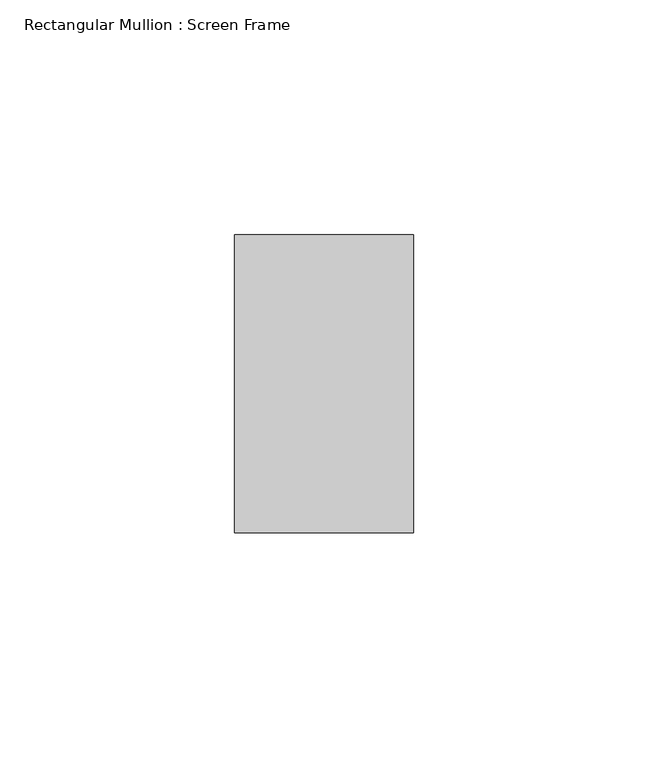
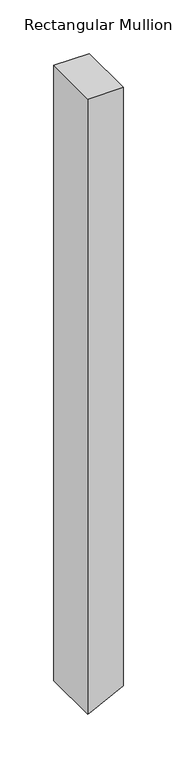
"""IFC4 building model written with IfcOpenShell, lengths in millimetres: member geometry, Rectangular Mullion : Screen Frame."""

from ifc_helpers import new_model, si_unit, frame, origin, place, context, project, spatial, polyline, outline, extrude, source, transform, mapped, element, save


def rectangular_mullion_screen_frame_4bcd470e(model_context):
    return source(origin(), model_context, "Body", "SweptSolid", [
        extrude(outline(polyline([(0.0, 19.05), (0.0, -19.05), (-699.9413206, -19.05), (-699.0336934, -17.2644466), (-680.5744418, 19.05), (0.0, 19.05)])), frame((0.0, -31.75, 0.0), z_axis=(0.0, 1.0, 0.0), x_axis=(0.0, 0.0, 1.0)), (0.0, 0.0, 1.0), 63.5),
    ])


if __name__ == "__main__":
    model = new_model("IFC4")
    model_context = context("Model", 3, world=origin())
    ifc_project = project(units=[si_unit("LENGTHUNIT", "METRE", prefix="MILLI")], contexts=[model_context])
    site = spatial("IfcSite", under=ifc_project)
    building = spatial("IfcBuilding", under=site)
    placement = place(None, origin())
    rectangular_mullion_screen_frame_shape = rectangular_mullion_screen_frame_4bcd470e(model_context)
    element("IfcMember", 1, ObjectType="Rectangular Mullion : Screen Frame", at=placement, inside=building, context=model_context, shape_type="MappedRepresentation", body=[
        mapped(rectangular_mullion_screen_frame_shape, transform((0.0, 0.0, 0.0), x_axis=(1.0, 0.0, 0.0), y_axis=(0.0, 1.0, 0.0), z_axis=(0.0, 0.0, 1.0))),
    ])
    save(model, "model.ifc")
